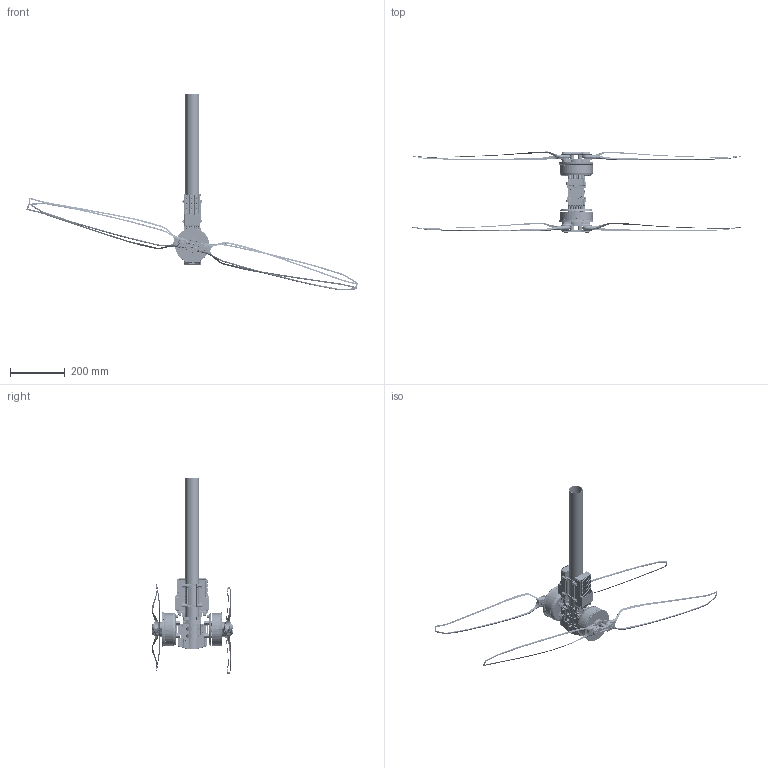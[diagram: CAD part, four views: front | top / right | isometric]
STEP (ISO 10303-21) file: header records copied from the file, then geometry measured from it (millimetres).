
FILE_DESCRIPTION (( 'STEP AP203' ), '1' );
FILE_NAME ('0-A12XL僕粣唳-耜坶.STEP', '2025-04-03T03:42:57', ( '' ), ( '' ), 'SwSTEP 2.0', 'SolidWorks 2022', '' );
FILE_SCHEMA (( 'CONFIG_CONTROL_DESIGN' ));
Length unit declared in the file: millimetre
Products named in the file (1): 0-A12XL共轴版-侧锁
Bounding box: 1216.74 x 297.02 x 720.32 mm (x, y, z)
Volume: 1888367.7 mm3; surface area: 912110.8 mm2
Topology: 158 solids, 158 shells, 11461 faces, 30131 edges, 18941 vertices
Faces by surface type: plane 4162, cylinder 4073, bspline 1856, cone 915, torus 347, sphere 108
Entity records: 494998 total; most frequent: CARTESIAN_POINT 224973, ORIENTED_EDGE 59902, DIRECTION 52319, EDGE_CURVE 29951, VERTEX_POINT 18938, AXIS2_PLACEMENT_3D 18813, LINE 14693, VECTOR 14693
